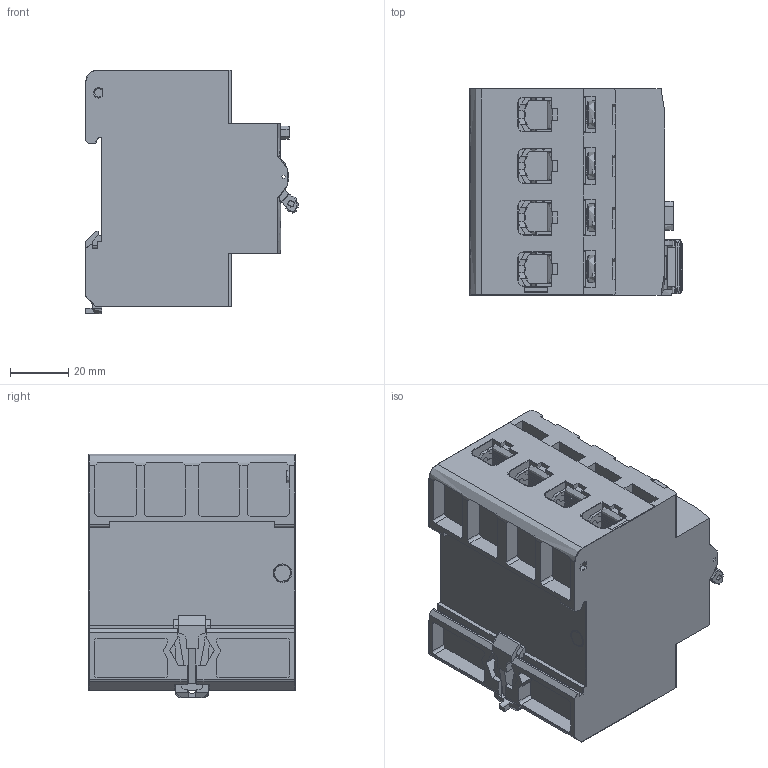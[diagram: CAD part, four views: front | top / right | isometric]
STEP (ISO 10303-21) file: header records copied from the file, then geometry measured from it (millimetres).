
FILE_DESCRIPTION (( 'STEP AP214' ), '1' );
FILE_NAME ('IER-100 4P(1)-1.STEP', '2026-07-06T11:42:00', ( '' ), ( '' ), 'SwSTEP 2.0', 'SolidWorks 2022', '' );
FILE_SCHEMA (( 'AUTOMOTIVE_DESIGN' ));
Length unit declared in the file: millimetre
Products named in the file (1): IER-100 4P(1)-1
Bounding box: 73.19 x 71 x 84 mm (x, y, z)
Topology: 50 solids, 55 shells, 4617 faces, 12986 edges, 8301 vertices
Faces by surface type: plane 2382, cylinder 1338, bspline 549, sphere 164, torus 102, cone 82
Full cylindrical faces by diameter (mm): 0.1 x3, 6 x1
Entity records: 287151 total; most frequent: CARTESIAN_POINT 126203, ORIENTED_EDGE 25729, DIRECTION 20978, EDGE_CURVE 12865, VERTEX_POINT 8262, AXIS2_PLACEMENT_3D 7168, LINE 6642, VECTOR 6642
